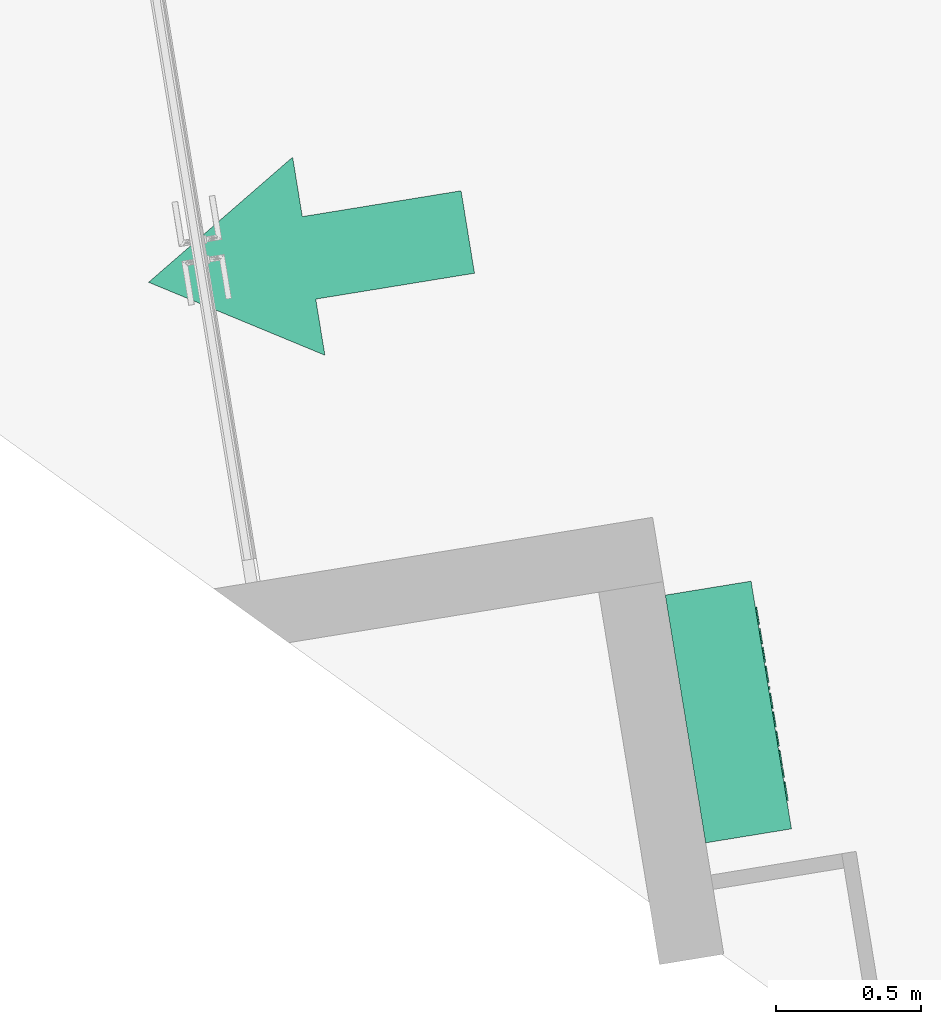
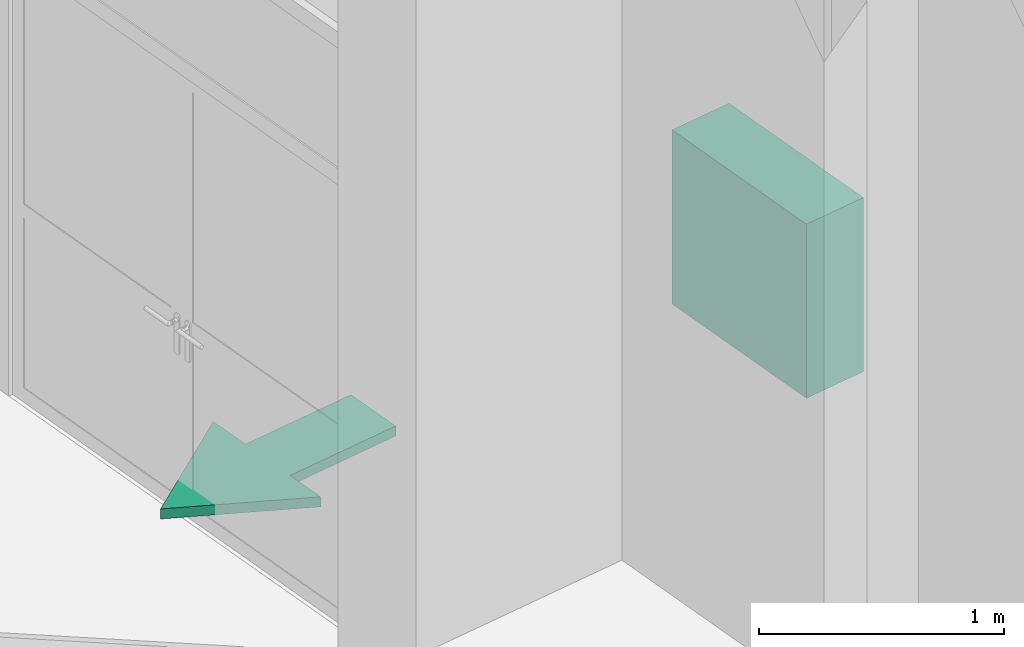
# One storey, part 9 of 10: 2 distribution control elements.
"""IFC2X3 building model written with IfcOpenShell, lengths in millimetres."""

from ifc_helpers import new_model, entity, si_unit, converted_unit, derived_unit, direction, frame, origin, origin_with_axes, origin_2d_with_axis, place, context, subcontext, project, spatial, polyline, rectangle, outline, extrude, source, transform, mapped, material, material_list, type_object, element, save


model = new_model("IFC2X3")

# Units and contexts
model_context = context("Model", 3, precision=0.01, world=origin(), true_north=direction((6.12323399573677e-17, 1.0)))
plan_context = context("Plan", 3, precision=1e-05, world=origin_with_axes())
body_context = subcontext(model_context, "Body", "Model", "MODEL_VIEW")
ifc_project = project(units=[converted_unit("PLANEANGLEUNIT", "DEGREE", entity("IfcPositiveLengthMeasure", 0.0174532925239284), si_unit("PLANEANGLEUNIT", "RADIAN"), dimensions=[0, 0, 0, 0, 0, 0, 0]), si_unit("AREAUNIT", "SQUARE_METRE"), si_unit("LENGTHUNIT", "METRE", prefix="MILLI"), si_unit("MASSUNIT", "GRAM", prefix="KILO"), si_unit("POWERUNIT", "WATT"), si_unit("PRESSUREUNIT", "PASCAL", prefix="KILO"), si_unit("FORCEUNIT", "NEWTON", prefix="KILO"), si_unit("ELECTRICVOLTAGEUNIT", "VOLT"), si_unit("ELECTRICCURRENTUNIT", "AMPERE"), si_unit("THERMODYNAMICTEMPERATUREUNIT", "DEGREE_CELSIUS"), si_unit("TIMEUNIT", "SECOND"), si_unit("VOLUMEUNIT", "CUBIC_METRE"), derived_unit("LINEARVELOCITYUNIT", [(si_unit("LENGTHUNIT", "METRE"), 1), (si_unit("TIMEUNIT", "SECOND"), -1)]), derived_unit("VOLUMETRICFLOWRATEUNIT", [(si_unit("VOLUMEUNIT", "CUBIC_METRE"), 1), (si_unit("TIMEUNIT", "SECOND"), -1)]), derived_unit("THERMALTRANSMITTANCEUNIT", [(si_unit("POWERUNIT", "WATT"), 1), (si_unit("THERMODYNAMICTEMPERATUREUNIT", "KELVIN"), -1), (si_unit("AREAUNIT", "SQUARE_METRE"), -1)]), derived_unit("SOUNDPRESSUREUNIT", [(si_unit("PRESSUREUNIT", "PASCAL"), 1)])], contexts=[model_context, plan_context])

# Site, building, storey
site_placement = place(None, frame((-305029.896016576, -232111.759730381, 0.0), z_axis=(0.0, 0.0, 1.0), x_axis=(-0.160806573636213, 0.986985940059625, 0.0)))
site = spatial("IfcSite", under=ifc_project, at=site_placement, Name="Default", CompositionType="ELEMENT")
building_placement = place(site_placement, frame((0.0, 0.0, 0.0), z_axis=(0.0, 0.0, 1.0), x_axis=(1.0, -2.77555756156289e-17, 0.0)))
building = spatial("IfcBuilding", under=site, at=building_placement, Name="br001-a-200-1-0001", CompositionType="ELEMENT")
storey_placement = place(building_placement, frame((0.0, 0.0, 55500.0), z_axis=(0.0, 0.0, 1.0), x_axis=(1.0, -2.77555756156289e-17, 0.0)))
storey = spatial("IfcBuildingStorey", under=building, at=storey_placement, Name="H02-Nivå F-3,5 m", CompositionType="ELEMENT", Elevation=55500.0)

# Distribution control elements
ifc_material_1 = material(Name="Green")
alarm_type_1 = type_object("IfcAlarmType", Name="Rømningsretning (4):Rømningsretning (4)", PredefinedType="NOTDEFINED", material=ifc_material_1)
shared_shape_1 = source(origin(), body_context, "Body", "SweptSolid", [
    extrude(outline(polyline([(-342.96204660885, -78.5726387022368), (3.32565987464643, -638.564167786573), (349.613366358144, -78.5726387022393), (141.685850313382, -78.5726387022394), (141.685850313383, 476.427361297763), (-146.674340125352, 476.427361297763), (-146.674340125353, -78.5726387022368), (-342.96204660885, -78.5726387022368)])), frame((-638.56416778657, 3.3256598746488, 100.0), z_axis=(0.0, 0.0, -1.0), x_axis=(0.0, -1.0, 0.0)), (0.0, 0.0, -1.0), 50.0),
])
distribution_control_element_1_placement = place(storey_placement, frame((1176934.09858442, -676095.378367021, 0.0), z_axis=(0.0, 0.0, 1.0), x_axis=(2.77555756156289e-17, 1.0, 0.0)))
element("IfcDistributionControlElement", 1, at=distribution_control_element_1_placement, inside=storey, type_object=alarm_type_1, material=ifc_material_1, Name="Rømningsretning (4):Rømningsretning (4)", ObjectType="Rømningsretning (4):Rømningsretning (4)", context=body_context, shape_type="MappedRepresentation", body=[
    mapped(shared_shape_1, transform((0.0, 0.0, 0.0), scale=1.0)),
])
ifc_material_2 = material(Name="Black")
ifc_material_3 = material(Name="Aluminum, Anodized Red")
ifc_material_list = material_list([ifc_material_2, ifc_material_3])
alarm_type_2 = type_object("IfcAlarmType", Name="Brannslange:Brannslange", PredefinedType="NOTDEFINED", material=ifc_material_list)
shared_shape_2 = source(origin(), body_context, "Body", "SweptSolid", [
    extrude(outline(polyline([(-42.9516655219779, -46.582417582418), (45.6637190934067, -46.582417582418), (45.6637190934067, -12.7675137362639), (43.0567479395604, 3.79378434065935), (35.0411229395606, 13.5726304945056), (23.7045844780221, 17.1098901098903), (13.3524210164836, 14.1351304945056), (5.50987293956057, 5.14594780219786), (-2.7545501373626, 16.0606112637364), (-16.5358001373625, 19.8791208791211), (-28.4456559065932, 17.2721497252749), (-36.9264251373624, 10.8142170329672), (-41.4264251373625, 1.17599587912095), (-42.9516655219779, -13.0271291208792), (-42.9516655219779, -46.582417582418)]), holes=[polyline([(9.66371909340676, -35.5054945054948), (9.66371909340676, -15.2771291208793), (10.6156421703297, -3.46462912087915), (14.7154017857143, 3.64234203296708), (21.9305460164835, 6.03296703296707), (29.1565075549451, 3.80460164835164), (33.4293440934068, -2.57760989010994), (34.5867960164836, -16.813186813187), (34.5867960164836, -35.5054945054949), (9.66371909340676, -35.5054945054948)]), polyline([(-31.8747424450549, -35.5054945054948), (-31.8747424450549, -12.7891483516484), (-31.4420501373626, -4.5679945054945), (-29.0297905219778, 2.38753434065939), (-24.1079155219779, 6.99570741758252), (-16.6439732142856, 8.80219780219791), (-8.03339629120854, 6.68200549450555), (-2.89517513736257, -0.186984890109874), (-1.41320398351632, -13.8708791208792), (-1.41320398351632, -35.5054945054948), (-31.8747424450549, -35.5054945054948)])]), frame((-287.802197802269, -5.0, 1929.86511886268), z_axis=(0.0, 1.0, 0.0), x_axis=(0.0, 0.0, 1.0)), (0.0, 0.0, 1.0), 5.0),
    extrude(outline(polyline([(-47.8823964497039, -15.3847078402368), (17.1945266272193, -15.3847078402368), (17.1945266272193, -5.69240014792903), (7.5671227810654, -5.69240014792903), (16.4373150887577, 1.18740754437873), (18.5791420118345, 8.11048446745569), (15.1608727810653, 19.2306767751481), (5.23058431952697, 15.5311575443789), (7.50221893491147, 7.74269600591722), (5.31712278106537, 1.47947485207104), (-0.740569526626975, -2.51211168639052), (-13.678069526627, -4.30778476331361), (-47.8823964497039, -4.30778476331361), (-47.8823964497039, -15.3847078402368)])), frame((-238.692215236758, -5.0, 1934.79584979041), z_axis=(0.0, 1.0, 0.0), x_axis=(0.0, 0.0, 1.0)), (0.0, 0.0, 1.0), 5.0),
    extrude(outline(polyline([(2.64323973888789, -29.1986925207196), (15.7481970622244, -29.1986925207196), (26.7264812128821, -24.1919172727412), (33.5610827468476, -17.8117906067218), (36.8993518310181, -10.6682702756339), (33.8047305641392, 3.56001757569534), (27.0475501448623, 9.52732092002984), (18.8376305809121, 11.5495069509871), (10.3982536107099, 10.0855976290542), (1.58824283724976, 5.96073957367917), (-16.3399005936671, -1.9236376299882), (-17.8059528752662, 0.0607430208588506), (-19.9903252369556, 8.51129016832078), (-11.7876828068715, 18.1504656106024), (-1.38123851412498, 22.823573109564), (7.33032112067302, 19.6870748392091), (15.6164318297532, 27.1674327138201), (5.49184923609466, 33.2887791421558), (-6.04834572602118, 32.9570668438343), (-19.303506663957, 26.4117894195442), (-29.1790237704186, 17.1079514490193), (-32.5625338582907, 8.71205870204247), (-31.0398895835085, 0.604072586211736), (-25.930948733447, -7.65014373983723), (-18.0363210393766, -18.9460591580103), (-7.47340497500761, -35.0417845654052), (-3.94678982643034, -43.9399692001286), (5.1325016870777, -37.5945227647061), (2.64323973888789, -29.1986925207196)]), holes=[polyline([(-10.0476531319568, -11.0401094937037), (6.54556929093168, -3.58719936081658), (15.3856082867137, 0.400277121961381), (20.596455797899, 0.478816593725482), (24.2792748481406, -2.14704117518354), (25.0079793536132, -8.9490808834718), (18.4481387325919, -16.4635118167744), (7.744251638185, -20.7110275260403), (-1.85322538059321, -19.5926079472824), (-8.19740389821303, -13.5742128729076), (-10.0476531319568, -11.0401094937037)])]), frame((-185.559999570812, -5.0, 1920.66828249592), z_axis=(0.0, 1.0, 0.0), x_axis=(-0.819658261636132, 0.0, -0.57285280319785)), (0.0, 0.0, 1.0), 5.0),
    extrude(outline(polyline([(-42.8054387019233, -27.9106820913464), (22.2714843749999, -27.9106820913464), (22.2714843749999, -16.8337590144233), (13.1849459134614, -16.8337590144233), (21.0383112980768, -8.3638070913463), (23.6560997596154, 3.19989483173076), (21.5467247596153, 13.6602313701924), (16.0082632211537, 20.7996544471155), (7.86283052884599, 24.1205679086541), (-2.84630408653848, 24.7047025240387), (-42.8054387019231, 24.7047025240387), (-42.8054387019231, 13.6277794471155), (-4.33909254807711, 13.6277794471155), (5.46138822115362, 12.3513371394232), (10.6428786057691, 7.84051983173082), (12.5791766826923, 0.235952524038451), (8.2306189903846, -11.7820763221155), (1.92953725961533, -15.5708383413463), (-8.27659254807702, -16.8337590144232), (-42.8054387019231, -16.8337590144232), (-42.8054387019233, -27.9106820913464)])), frame((-116.781625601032, -5.0, 1929.71889204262), z_axis=(0.0, 1.0, 0.0), x_axis=(0.0, 0.0, 1.0)), (0.0, 0.0, 1.0), 5.0),
    extrude(outline(polyline([(-42.8054387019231, -27.9106820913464), (22.2714843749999, -27.9106820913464), (22.2714843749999, -16.8337590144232), (13.1849459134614, -16.8337590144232), (21.0383112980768, -8.36380709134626), (23.6560997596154, 3.19989483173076), (21.5467247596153, 13.6602313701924), (16.0082632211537, 20.7996544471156), (7.86283052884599, 24.1205679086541), (-2.84630408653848, 24.7047025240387), (-42.8054387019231, 24.7047025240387), (-42.8054387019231, 13.6277794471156), (-4.33909254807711, 13.6277794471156), (5.46138822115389, 12.3513371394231), (10.6428786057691, 7.84051983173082), (12.5791766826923, 0.235952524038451), (8.2306189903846, -11.7820763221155), (1.92953725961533, -15.5708383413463), (-8.27659254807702, -16.8337590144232), (-42.8054387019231, -16.8337590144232), (-42.8054387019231, -27.9106820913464)])), frame((-48.9354717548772, -5.0, 1929.71889204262), z_axis=(0.0, 1.0, 0.0), x_axis=(0.0, 0.0, 1.0)), (0.0, 0.0, 1.0), 5.0),
    extrude(outline(polyline([(-27.2313191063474, 10.8530541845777), (-16.0681929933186, 10.8530541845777), (-12.000092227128, 19.6466994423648), (-0.697427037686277, 23.9375260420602), (10.833330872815, 22.7407101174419), (15.2449124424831, 17.1001112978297), (12.191153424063, 11.7037058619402), (1.26953725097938, 7.1552686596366), (-14.6097413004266, -0.291287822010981), (-21.0486646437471, -7.47352509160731), (-22.398436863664, -16.6468776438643), (-19.3996884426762, -24.5898712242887), (-13.2291094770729, -30.1741177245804), (-5.83488014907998, -32.5529906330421), (3.78929095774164, -32.7126555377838), (16.8938886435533, -28.8833812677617), (24.665141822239, -21.9815638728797), (27.2103882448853, -11.6449384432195), (16.0472621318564, -11.6449384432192), (12.6728315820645, -18.2260843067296), (3.2740697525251, -21.6139320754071), (-7.50532390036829, -20.8464671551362), (-11.2675120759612, -16.3892670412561), (-10.3578246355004, -13.0269119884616), (-6.56075169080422, -10.0885410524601), (2.61394258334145, -6.56517937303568), (18.100096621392, 0.625108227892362), (24.8596914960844, 7.42227131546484), (26.3812041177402, 17.3147868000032), (21.8783854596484, 27.4353950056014), (11.7255759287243, 33.9172534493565), (-2.22162310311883, 34.9101276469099), (-13.1418975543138, 32.2260130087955), (-20.7427520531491, 27.3186652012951), (-25.3354660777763, 20.1927802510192), (-27.2313191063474, 10.8530541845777)])), frame((12.5210336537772, -5.0, 1920.44494372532), z_axis=(0.0, 1.0, 0.0), x_axis=(0.99227787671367, 0.0, 0.124034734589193)), (0.0, 0.0, 1.0), 5.0),
    extrude(rectangle(XDim=5.0, YDim=11.0769230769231, at=origin_2d_with_axis()), frame((58.8461538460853, -2.50000000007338, 1886.9134533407), z_axis=(0.0, 0.0, 1.0), x_axis=(0.0, 1.0, 0.0)), (0.0, 0.0, 1.0), 88.6153846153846),
    extrude(outline(polyline([(2.64323973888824, -29.19869252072), (15.7481970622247, -29.19869252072), (26.7264812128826, -24.1919172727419), (33.5610827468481, -17.8117906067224), (36.8993518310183, -10.6682702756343), (33.8047305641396, 3.56001757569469), (27.0475501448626, 9.52732092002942), (18.8376305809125, 11.5495069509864), (10.3982536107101, 10.0855976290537), (1.58824283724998, 5.96073957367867), (-16.3399005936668, -1.92363762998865), (-17.8059528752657, 0.0607430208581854), (-19.9903252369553, 8.51129016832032), (-11.7876828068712, 18.150465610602), (-1.3812385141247, 22.8235731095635), (7.33032112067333, 19.6870748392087), (15.6164318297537, 27.1674327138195), (5.4918492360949, 33.2887791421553), (-6.04834572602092, 32.9570668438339), (-19.3035066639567, 26.4117894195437), (-29.1790237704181, 17.1079514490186), (-32.5625338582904, 8.71205870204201), (-31.0398895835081, 0.60407258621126), (-25.9309487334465, -7.65014373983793), (-18.0363210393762, -18.9460591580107), (-7.47340497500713, -35.0417845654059), (-3.94678982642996, -43.939969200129), (5.13250168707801, -37.5945227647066), (2.64323973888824, -29.19869252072)]), holes=[polyline([(-10.0476531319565, -11.0401094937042), (6.5455692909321, -3.58719936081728), (15.385608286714, 0.400277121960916), (20.5964557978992, 0.478816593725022), (24.279274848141, -2.14704117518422), (25.0079793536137, -8.94908088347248), (18.4481387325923, -16.4635118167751), (7.74425163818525, -20.7110275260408), (-1.8532253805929, -19.5926079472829), (-8.19740389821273, -13.5742128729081), (-10.0476531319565, -11.0401094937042)])]), frame((107.978461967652, -5.0, 1920.66828249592), z_axis=(0.0, 1.0, 0.0), x_axis=(-0.819658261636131, 0.0, -0.572852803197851)), (0.0, 0.0, 1.0), 5.0),
    extrude(outline(polyline([(-42.8054387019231, -27.9106820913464), (22.2714843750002, -27.9106820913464), (22.2714843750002, -16.8337590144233), (13.1849459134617, -16.8337590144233), (21.038311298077, -8.36380709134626), (23.6560997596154, 3.19989483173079), (21.5467247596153, 13.6602313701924), (16.0082632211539, 20.7996544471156), (7.86283052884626, 24.1205679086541), (-2.84630408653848, 24.7047025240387), (-42.8054387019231, 24.7047025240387), (-42.8054387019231, 13.6277794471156), (-4.33909254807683, 13.6277794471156), (5.46138822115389, 12.3513371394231), (10.6428786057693, 7.84051983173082), (12.5791766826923, 0.235952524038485), (8.2306189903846, -11.7820763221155), (1.92953725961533, -15.5708383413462), (-8.27659254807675, -16.8337590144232), (-42.8054387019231, -16.8337590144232), (-42.8054387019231, -27.9106820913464)])), frame((176.756835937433, -5.0, 1929.71889204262), z_axis=(0.0, 1.0, 0.0), x_axis=(0.0, 0.0, 1.0)), (0.0, 0.0, 1.0), 5.0),
    extrude(outline(polyline([(-22.2207593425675, 22.2871745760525), (-11.0576332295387, 22.2871745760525), (-6.76949007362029, 27.6379614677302), (4.20579497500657, 28.7515906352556), (15.10862704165, 24.5761521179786), (19.504107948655, 16.1340379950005), (18.6534562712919, 3.22398998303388), (11.6872362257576, 10.3740259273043), (2.50985850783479, 13.6142842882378), (-9.1221994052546, 12.6318084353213), (-18.4719883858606, 6.49108278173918), (-25.0477673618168, -3.40310985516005), (-28.3577952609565, -15.6459866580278), (-27.3421117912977, -33.0736122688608), (-19.746624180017, -46.2654218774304), (-6.27036953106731, -52.266943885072), (3.83547973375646, -51.0882412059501), (12.6425422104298, -44.8633225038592), (11.6120997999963, -53.1068617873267), (22.6034855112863, -54.480785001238), (29.5723890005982, 1.27044291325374), (29.2356168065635, 22.9956037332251), (20.9558510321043, 34.1144530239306), (5.36504268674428, 39.7698107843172), (-13.5572611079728, 36.9132848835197), (-19.5275880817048, 31.1214069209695), (-22.2207593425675, 22.2871745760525)]), holes=[polyline([(-17.4603300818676, -17.7712741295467), (-10.643041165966, -1.34457304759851), (1.80142935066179, 2.53971181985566), (12.8894190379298, -4.25342610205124), (15.5540787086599, -21.5710305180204), (8.61066793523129, -37.3496799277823), (-3.86600390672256, -41.4043634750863), (-14.7245591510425, -34.5199884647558), (-17.4603300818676, -17.7712741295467)])]), frame((238.736628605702, -5.0, 1900.73391608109), z_axis=(0.0, 1.0, 0.0), x_axis=(0.992277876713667, 0.0, -0.124034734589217)), (0.0, 0.0, 1.0), 5.0),
    extrude(outline(polyline([(20.2347157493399, 7.57468640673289), (31.1831992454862, 7.57468640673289), (22.9158330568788, 23.0449235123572), (4.79124065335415, 30.4809146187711), (-8.37876752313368, 29.9489983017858), (-19.1311744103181, 24.6869395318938), (-26.7895766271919, 15.0392457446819), (-30.6775707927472, 1.35042437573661), (-30.3868866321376, -13.348224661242), (-25.3724512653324, -24.9523560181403), (-16.4440292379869, -32.9279906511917), (-4.41138509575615, -36.74114951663), (7.80879618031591, -36.0254367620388), (18.2011877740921, -30.5293707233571), (25.8271741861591, -20.5585769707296), (29.7481399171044, -6.41868107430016), (30.0613323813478, -3.44886751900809), (-19.3202185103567, 2.84678837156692), (-16.3696535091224, 10.8291990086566), (-11.1805062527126, 16.3125253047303), (3.60499106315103, 19.4655688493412), (14.0856096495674, 15.7957534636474), (20.2347157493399, 7.57468640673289)]), holes=[polyline([(-20.7210771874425, -8.14119687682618), (17.7368711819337, -13.0442022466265), (12.0678567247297, -22.4411731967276), (-3.05344823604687, -25.7476921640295), (-16.0605971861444, -19.9128472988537), (-20.7210771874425, -8.14119687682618)])]), frame((310.986655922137, -5.0, 1916.37094897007), z_axis=(0.0, 1.0, 0.0), x_axis=(0.991970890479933, 0.0, -0.126466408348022)), (0.0, 0.0, 1.0), 5.0),
    extrude(rectangle(XDim=300.0, YDim=866.0, at=origin_2d_with_axis()), frame((0.0, 150.0, 1200.0), z_axis=(0.0, 0.0, 1.0), x_axis=(0.0, -1.0, 0.0)), (0.0, 0.0, 1.0), 865.999999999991),
])
distribution_control_element_2_placement = place(storey_placement, frame((1175149.09858442, -677981.378367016, 0.0), z_axis=(0.0, 0.0, 1.0), x_axis=(1.0, -2.77555756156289e-17, 0.0)))
element("IfcDistributionControlElement", 2, at=distribution_control_element_2_placement, inside=storey, type_object=alarm_type_2, material=ifc_material_list, Name="Brannslange:Brannslange", ObjectType="Brannslange:Brannslange", context=body_context, shape_type="MappedRepresentation", body=[
    mapped(shared_shape_2, transform((0.0, 0.0, 0.0), scale=1.0)),
])

save(model, "model.ifc")
